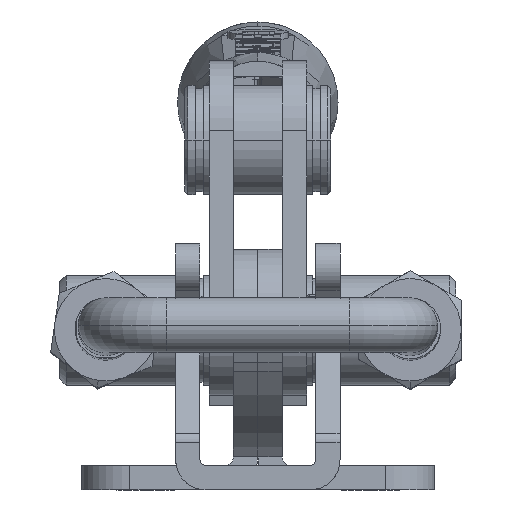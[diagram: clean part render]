
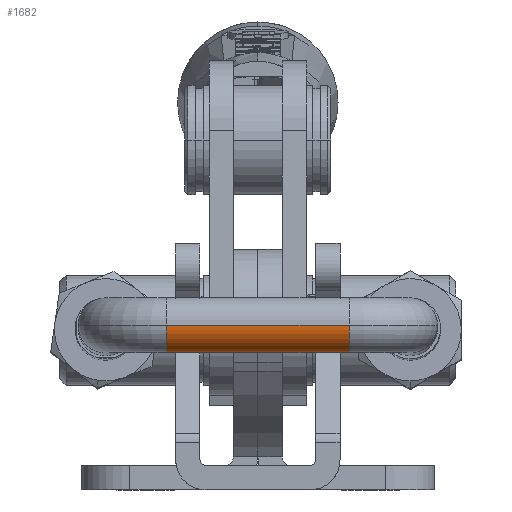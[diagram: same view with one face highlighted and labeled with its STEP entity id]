
A CAD part, left-side view. The second image highlights one B-rep face of the part: STEP entity #1682.
In plain terms, the highlighted cylindrical face has radius 4.5 mm (diameter 9 mm), a partial arc.
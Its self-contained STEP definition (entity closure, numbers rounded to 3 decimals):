
#312 = ORIENTED_EDGE ( 'NONE', *, *, #3904, .T. ) ;
#333 = ORIENTED_EDGE ( 'NONE', *, *, #401, .T. ) ;
#401 = EDGE_CURVE ( 'NONE', #2103, #27150, #17214, .T. ) ;
#1682 = ADVANCED_FACE ( 'NONE', ( #2527 ), #7547, .T. ) ;
#2103 = VERTEX_POINT ( 'NONE', #20622 ) ;
#2527 = FACE_OUTER_BOUND ( 'NONE', #14172, .T. ) ;
#3522 = CARTESIAN_POINT ( 'NONE',  ( 0., 0., 15. ) ) ;
#3904 = EDGE_CURVE ( 'NONE', #7741, #2103, #24137, .T. ) ;
#4530 = LINE ( 'NONE', #30928, #7189 ) ;
#6191 = DIRECTION ( 'NONE',  ( 1., 0., 0. ) ) ;
#7189 = VECTOR ( 'NONE', #19137, 1000. ) ;
#7547 = CYLINDRICAL_SURFACE ( 'NONE', #19174, 4.5 ) ;
#7741 = VERTEX_POINT ( 'NONE', #10283 ) ;
#7836 = CARTESIAN_POINT ( 'NONE',  ( -4.5, 0., 15. ) ) ;
#8877 = EDGE_CURVE ( 'NONE', #7741, #26169, #9842, .T. ) ;
#9842 = CIRCLE ( 'NONE', #20376, 4.5 ) ;
#9992 = CARTESIAN_POINT ( 'NONE',  ( 4.5, 0., -15. ) ) ;
#10283 = CARTESIAN_POINT ( 'NONE',  ( 4.5, 0., -15. ) ) ;
#12102 = DIRECTION ( 'NONE',  ( 0., 0., 1. ) ) ;
#12405 = ORIENTED_EDGE ( 'NONE', *, *, #8877, .F. ) ;
#12950 = DIRECTION ( 'NONE',  ( 0., 0., -1. ) ) ;
#14007 = CARTESIAN_POINT ( 'NONE',  ( 0., 0., -15. ) ) ;
#14172 = EDGE_LOOP ( 'NONE', ( #29742, #12405, #312, #333 ) ) ;
#17214 = CIRCLE ( 'NONE', #21733, 4.5 ) ;
#18714 = CARTESIAN_POINT ( 'NONE',  ( 0., 0., -15. ) ) ;
#18753 = VECTOR ( 'NONE', #29482, 1000. ) ;
#18865 = DIRECTION ( 'NONE',  ( 0., 0., -1. ) ) ;
#19137 = DIRECTION ( 'NONE',  ( 0., 0., 1. ) ) ;
#19174 = AXIS2_PLACEMENT_3D ( 'NONE', #14007, #12102, #23602 ) ;
#19816 = CARTESIAN_POINT ( 'NONE',  ( -4.5, 0., -15. ) ) ;
#20376 = AXIS2_PLACEMENT_3D ( 'NONE', #18714, #18865, #24042 ) ;
#20622 = CARTESIAN_POINT ( 'NONE',  ( 4.5, 0., 15. ) ) ;
#21733 = AXIS2_PLACEMENT_3D ( 'NONE', #3522, #12950, #6191 ) ;
#23602 = DIRECTION ( 'NONE',  ( 1., 0., 0. ) ) ;
#24042 = DIRECTION ( 'NONE',  ( 1., 0., 0. ) ) ;
#24137 = LINE ( 'NONE', #9992, #18753 ) ;
#24147 = EDGE_CURVE ( 'NONE', #26169, #27150, #4530, .T. ) ;
#26169 = VERTEX_POINT ( 'NONE', #19816 ) ;
#27150 = VERTEX_POINT ( 'NONE', #7836 ) ;
#29482 = DIRECTION ( 'NONE',  ( 0., 0., 1. ) ) ;
#29742 = ORIENTED_EDGE ( 'NONE', *, *, #24147, .F. ) ;
#30928 = CARTESIAN_POINT ( 'NONE',  ( -4.5, 0., -15. ) ) ;
